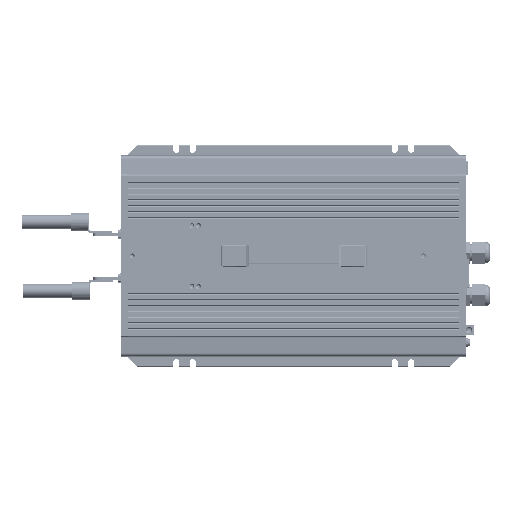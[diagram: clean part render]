
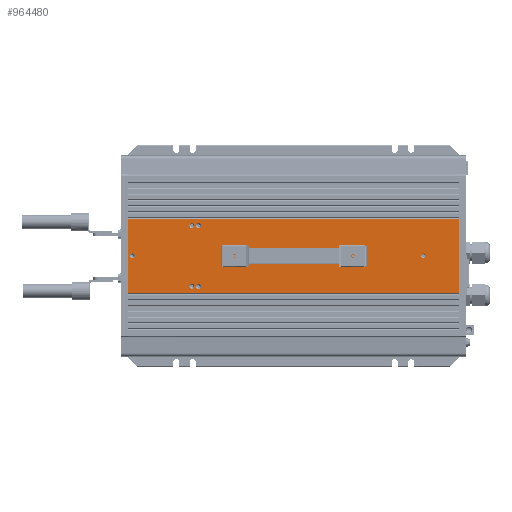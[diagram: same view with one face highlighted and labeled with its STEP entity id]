
A CAD part, top view. The second image highlights one B-rep face of the part: STEP entity #964480.
In plain terms, the highlighted planar face has unit normal (0, 0, 1) as drawn and (0, 1, 0) by its records, which use the part's own axes.
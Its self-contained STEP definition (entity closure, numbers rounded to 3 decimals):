
#941760=CARTESIAN_POINT('',(2078.449,98.104,-63.1));
#941770=VERTEX_POINT('',#941760);
#941800=CARTESIAN_POINT('',(1988.299,98.104,-63.1));
#941810=DIRECTION('',(1.,0.,0.));
#941820=VECTOR('',#941810,90.15);
#941830=LINE('',#941800,#941820);
#941840=CARTESIAN_POINT('',(1988.299,98.104,-63.1));
#941850=VERTEX_POINT('',#941840);
#941860=EDGE_CURVE('',#941850,#941770,#941830,.T.);
#950740=CARTESIAN_POINT('',(1988.299,98.104,340.9));
#950750=VERTEX_POINT('',#950740);
#950780=CARTESIAN_POINT('',(2078.449,98.104,340.9));
#950790=DIRECTION('',(-1.,0.,0.));
#950800=VECTOR('',#950790,90.15);
#950810=LINE('',#950780,#950800);
#950820=CARTESIAN_POINT('',(2078.449,98.104,340.9));
#950830=VERTEX_POINT('',#950820);
#950840=EDGE_CURVE('',#950830,#950750,#950810,.T.);
#962580=CARTESIAN_POINT('',(2030.374,98.104,296.9));
#962590=VERTEX_POINT('',#962580);
#962710=CARTESIAN_POINT('',(2036.374,98.104,296.9));
#962720=VERTEX_POINT('',#962710);
#962750=CARTESIAN_POINT('',(2033.374,98.104,296.9));
#962760=DIRECTION('',(0.,-1.,0.));
#962770=DIRECTION('',(1.,0.,0.));
#962780=AXIS2_PLACEMENT_3D('',#962750,#962760,#962770);
#962790=CIRCLE('',#962780,3.);
#962800=EDGE_CURVE('',#962720,#962590,#962790,.T.);
#963090=CARTESIAN_POINT('',(2028.721,98.104,122.9));
#963100=DIRECTION('',(0.,-1.,0.));
#963110=DIRECTION('',(1.,0.,0.));
#963120=AXIS2_PLACEMENT_3D('',#963090,#963100,#963110);
#963130=PLANE('',#963120);
#963140=CARTESIAN_POINT('',(2033.376,98.104,210.9));
#963150=DIRECTION('',(0.,1.,0.));
#963160=DIRECTION('',(0.,0.,1.));
#963170=AXIS2_PLACEMENT_3D('',#963140,#963150,#963160);
#963180=CIRCLE('',#963170,1.6);
#963190=CARTESIAN_POINT('',(2033.376,98.104,212.5));
#963200=VERTEX_POINT('',#963190);
#963210=CARTESIAN_POINT('',(2033.376,98.104,209.3));
#963220=VERTEX_POINT('',#963210);
#963230=EDGE_CURVE('',#963200,#963220,#963180,.T.);
#963240=ORIENTED_EDGE('',*,*,#963230,.F.);
#963250=EDGE_CURVE('',#963220,#963200,#963180,.T.);
#963260=ORIENTED_EDGE('',*,*,#963250,.F.);
#963270=EDGE_LOOP('',(#963260,#963240));
#963280=FACE_BOUND('',#963270,.T.);
#963290=CARTESIAN_POINT('',(1996.284,98.104,22.949)
);
#963300=DIRECTION('',(0.,1.,0.));
#963310=DIRECTION('',(1.,0.,0.));
#963320=AXIS2_PLACEMENT_3D('',#963290,#963300,#963310);
#963330=CIRCLE('',#963320,3.);
#963340=CARTESIAN_POINT('',(1996.284,98.104,19.949)
);
#963350=VERTEX_POINT('',#963340);
#963360=CARTESIAN_POINT('',(1993.284,98.104,22.949)
);
#963370=VERTEX_POINT('',#963360);
#963380=EDGE_CURVE('',#963350,#963370,#963330,.T.);
#963390=ORIENTED_EDGE('',*,*,#963380,.F.);
#963400=CARTESIAN_POINT('',(1999.284,98.104,22.949)
);
#963410=VERTEX_POINT('',#963400);
#963420=EDGE_CURVE('',#963370,#963410,#963330,.T.);
#963430=ORIENTED_EDGE('',*,*,#963420,.F.);
#963440=EDGE_CURVE('',#963410,#963350,#963330,.T.);
#963450=ORIENTED_EDGE('',*,*,#963440,.F.);
#963460=EDGE_LOOP('',(#963450,#963430,#963390));
#963470=FACE_BOUND('',#963460,.T.);
#963480=EDGE_CURVE('',#962590,#962720,#962790,.T.);
#963490=ORIENTED_EDGE('',*,*,#963480,.T.);
#963500=ORIENTED_EDGE('',*,*,#962800,.T.);
#963510=EDGE_LOOP('',(#963500,#963490));
#963520=FACE_BOUND('',#963510,.T.);
#963530=CARTESIAN_POINT('',(2033.376,98.104,-57.6));
#963540=DIRECTION('',(0.,-1.,0.));
#963550=DIRECTION('',(-1.,0.,0.));
#963560=AXIS2_PLACEMENT_3D('',#963530,#963540,#963550);
#963570=CIRCLE('',#963560,3.);
#963580=CARTESIAN_POINT('',(2030.376,98.104,
-57.6));
#963590=VERTEX_POINT('',#963580);
#963600=CARTESIAN_POINT('',(2036.376,98.104,
-57.6));
#963610=VERTEX_POINT('',#963600);
#963620=EDGE_CURVE('',#963590,#963610,#963570,.T.);
#963630=ORIENTED_EDGE('',*,*,#963620,.T.);
#963640=EDGE_CURVE('',#963610,#963590,#963570,.T.);
#963650=ORIENTED_EDGE('',*,*,#963640,.T.);
#963660=EDGE_LOOP('',(#963650,#963630));
#963670=FACE_BOUND('',#963660,.T.);
#963680=CARTESIAN_POINT('',(2070.318,98.104,14.949));
#963690=DIRECTION('',(0.,1.,0.));
#963700=DIRECTION('',(1.,0.,0.));
#963710=AXIS2_PLACEMENT_3D('',#963680,#963690,#963700);
#963720=CIRCLE('',#963710,3.);
#963730=CARTESIAN_POINT('',(2073.318,98.104,14.949));
#963740=VERTEX_POINT('',#963730);
#963750=CARTESIAN_POINT('',(2067.318,98.104,14.949));
#963760=VERTEX_POINT('',#963750);
#963770=EDGE_CURVE('',#963740,#963760,#963720,.T.);
#963780=ORIENTED_EDGE('',*,*,#963770,.F.);
#963790=EDGE_CURVE('',#963760,#963740,#963720,.T.);
#963800=ORIENTED_EDGE('',*,*,#963790,.F.);
#963810=EDGE_LOOP('',(#963800,#963780));
#963820=FACE_BOUND('',#963810,.T.);
#963830=CARTESIAN_POINT('',(1996.284,98.104,14.949)
);
#963840=DIRECTION('',(0.,1.,0.));
#963850=DIRECTION('',(1.,0.,0.));
#963860=AXIS2_PLACEMENT_3D('',#963830,#963840,#963850);
#963870=CIRCLE('',#963860,3.);
#963880=CARTESIAN_POINT('',(1995.513,98.104,12.05)
);
#963890=VERTEX_POINT('',#963880);
#963900=CARTESIAN_POINT('',(1993.284,98.104,14.949)
);
#963910=VERTEX_POINT('',#963900);
#963920=EDGE_CURVE('',#963890,#963910,#963870,.T.);
#963930=ORIENTED_EDGE('',*,*,#963920,.F.);
#963940=CARTESIAN_POINT('',(1999.284,98.104,14.949)
);
#963950=VERTEX_POINT('',#963940);
#963960=EDGE_CURVE('',#963910,#963950,#963870,.T.);
#963970=ORIENTED_EDGE('',*,*,#963960,.F.);
#963980=EDGE_CURVE('',#963950,#963890,#963870,.T.);
#963990=ORIENTED_EDGE('',*,*,#963980,.F.);
#964000=EDGE_LOOP('',(#963990,#963970,#963930));
#964010=FACE_BOUND('',#964000,.T.);
#964020=CARTESIAN_POINT('',(2070.318,98.104,22.949));
#964030=DIRECTION('',(0.,1.,0.));
#964040=DIRECTION('',(1.,0.,0.));
#964050=AXIS2_PLACEMENT_3D('',#964020,#964030,#964040);
#964060=CIRCLE('',#964050,3.);
#964070=CARTESIAN_POINT('',(2073.318,98.104,22.949));
#964080=VERTEX_POINT('',#964070);
#964090=CARTESIAN_POINT('',(2067.318,98.104,22.949));
#964100=VERTEX_POINT('',#964090);
#964110=EDGE_CURVE('',#964080,#964100,#964060,.T.);
#964120=ORIENTED_EDGE('',*,*,#964110,.F.);
#964130=EDGE_CURVE('',#964100,#964080,#964060,.T.);
#964140=ORIENTED_EDGE('',*,*,#964130,.F.);
#964150=EDGE_LOOP('',(#964140,#964120));
#964160=FACE_BOUND('',#964150,.T.);
#964170=CARTESIAN_POINT('',(2033.376,98.104,66.9));
#964180=DIRECTION('',(0.,1.,0.));
#964190=DIRECTION('',(0.,0.,1.));
#964200=AXIS2_PLACEMENT_3D('',#964170,#964180,#964190);
#964210=CIRCLE('',#964200,1.6);
#964220=CARTESIAN_POINT('',(2033.376,98.104,68.5));
#964230=VERTEX_POINT('',#964220);
#964240=CARTESIAN_POINT('',(2033.376,98.104,65.3));
#964250=VERTEX_POINT('',#964240);
#964260=EDGE_CURVE('',#964230,#964250,#964210,.T.);
#964270=ORIENTED_EDGE('',*,*,#964260,.F.);
#964280=EDGE_CURVE('',#964250,#964230,#964210,.T.);
#964290=ORIENTED_EDGE('',*,*,#964280,.F.);
#964300=EDGE_LOOP('',(#964290,#964270));
#964310=FACE_BOUND('',#964300,.T.);
#964320=ORIENTED_EDGE('',*,*,#941860,.F.);
#964330=CARTESIAN_POINT('',(2078.449,98.104,-63.1));
#964340=DIRECTION('',(0.,0.,1.));
#964350=VECTOR('',#964340,404.);
#964360=LINE('',#964330,#964350);
#964370=EDGE_CURVE('',#941770,#950830,#964360,.T.);
#964380=ORIENTED_EDGE('',*,*,#964370,.F.);
#964390=ORIENTED_EDGE('',*,*,#950840,.F.);
#964400=CARTESIAN_POINT('',(1988.299,98.104,340.9));
#964410=DIRECTION('',(0.,0.,-1.));
#964420=VECTOR('',#964410,404.);
#964430=LINE('',#964400,#964420);
#964440=EDGE_CURVE('',#950750,#941850,#964430,.T.);
#964450=ORIENTED_EDGE('',*,*,#964440,.F.);
#964460=EDGE_LOOP('',(#964450,#964390,#964380,#964320));
#964470=FACE_OUTER_BOUND('',#964460,.T.);
#964480=ADVANCED_FACE('',(#963280,#963470,#963520,#963670,#963820,
#964010,#964160,#964310,#964470),#963130,.F.);
